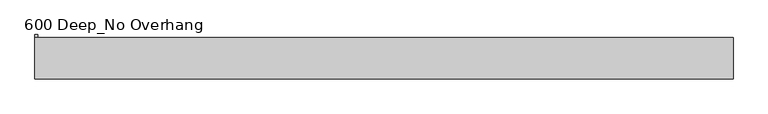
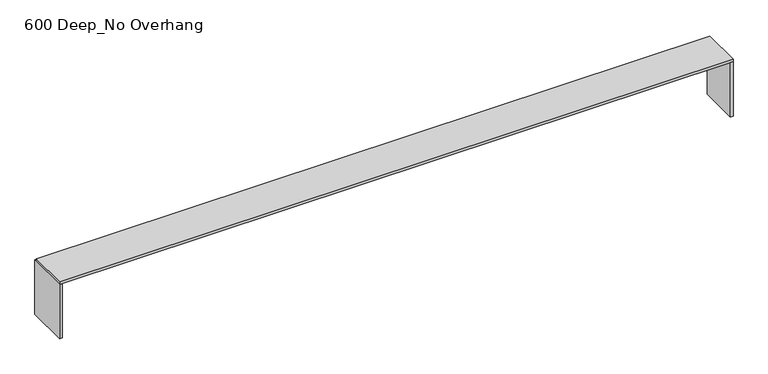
"""IFC4 building model written with IfcOpenShell, lengths in millimetres: furniture geometry, Benchtop_Optional Hole_I Shaped_CAS : 600 Deep_No Overhang."""

from ifc_helpers import new_model, si_unit, frame, origin, origin_with_axes, place, context, project, spatial, polyline, outline, extrude, source, transform, mapped, element, save


def furniture_600_deep_no_overhang_41d87fa4(model_context):
    return source(origin(), model_context, "Body", "SweptSolid", [
        extrude(outline(polyline([(8886.7860399, -600.0), (8886.7860399, 0.0), (8926.7860399, 0.0), (8926.7860399, -600.0), (8886.7860399, -600.0)])), origin_with_axes(), (0.0, 0.0, 1.0), 860.0),
        extrude(outline(polyline([(-1115.2996736, 40.0), (-1115.2996736, -600.0), (-1155.2996736, -600.0), (-1155.2996736, 40.0), (-1115.2996736, 40.0)])), origin_with_axes(), (0.0, 0.0, 1.0), 860.0),
        extrude(outline(polyline([(8926.7860399, 0.0), (8926.7860399, -600.0), (-1155.2996736, -600.0), (-1155.2996736, 0.0), (8926.7860399, 0.0)])), frame((0.0, 0.0, 860.0), z_axis=(0.0, 0.0, 1.0), x_axis=(1.0, 0.0, 0.0)), (0.0, 0.0, 1.0), 40.0),
    ])


if __name__ == "__main__":
    model = new_model("IFC4")
    model_context = context("Model", 3, world=origin())
    ifc_project = project(units=[si_unit("LENGTHUNIT", "METRE", prefix="MILLI")], contexts=[model_context])
    site = spatial("IfcSite", under=ifc_project)
    building = spatial("IfcBuilding", under=site)
    placement = place(None, origin())
    furniture_600_deep_no_overhang_shape = furniture_600_deep_no_overhang_41d87fa4(model_context)
    element("IfcFurniture", 1, ObjectType="Benchtop_Optional Hole_I Shaped_CAS : 600 Deep_No Overhang", at=placement, inside=building, context=model_context, shape_type="MappedRepresentation", body=[
        mapped(furniture_600_deep_no_overhang_shape, transform((0.0, 0.0, 0.0), x_axis=(1.0, 0.0, 0.0), y_axis=(0.0, 1.0, 0.0), z_axis=(0.0, 0.0, 1.0))),
    ])
    save(model, "model.ifc")
